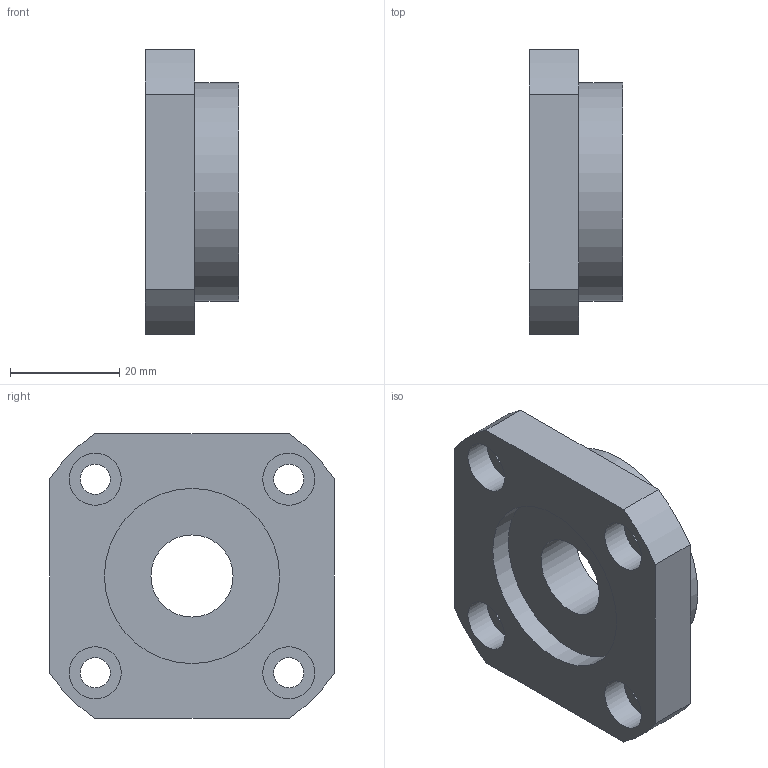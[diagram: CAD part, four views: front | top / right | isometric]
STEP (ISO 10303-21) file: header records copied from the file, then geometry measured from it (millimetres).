
FILE_DESCRIPTION((''),'2;1');
FILE_NAME('D:\製品 (図面)\カタログ用3D\ネジ関連\STEP形式\FF\FF15.stp','2010-06-01T16:42:04',('Tsuchiya'),(''),'Autodesk Inventor 10','Autodesk Inventor 10','');
FILE_SCHEMA(('AUTOMOTIVE_DESIGN { 1 0 10303 214 1 1 1 1 }'));
Length unit declared in the file: millimetre
Products named in the file (1): FF15
Bounding box: 17 x 52 x 52 mm (x, y, z)
Volume: 23502.7 mm3; surface area: 9436.2 mm2
Topology: 1 solids, 1 shells, 29 faces, 60 edges, 40 vertices
Faces by surface type: cylinder 16, plane 13
Full cylindrical faces by diameter (mm): 5.5 x4, 9.5 x4, 15 x1, 32 x2, 40 x1
Entity records: 769 total; most frequent: DIRECTION 140, CARTESIAN_POINT 118, ORIENTED_EDGE 96, AXIS2_PLACEMENT_3D 62, EDGE_LOOP 58, EDGE_CURVE 48, VERTEX_POINT 40, CIRCLE 32
